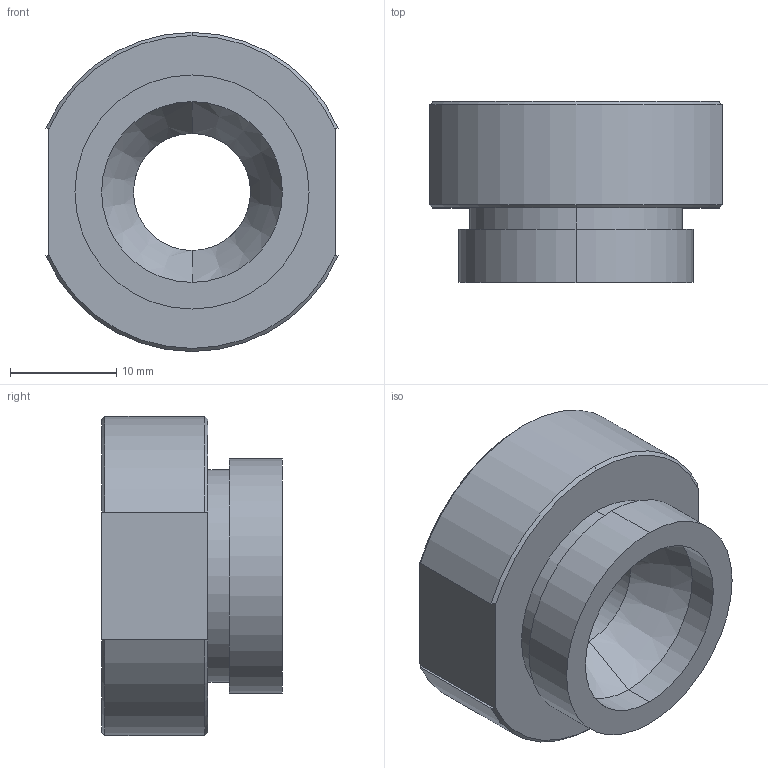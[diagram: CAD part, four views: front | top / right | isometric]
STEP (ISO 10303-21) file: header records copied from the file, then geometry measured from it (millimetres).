
FILE_DESCRIPTION (( 'STEP AP203' ), '1' );
FILE_NAME ('SW-PN-C10A.STEP', '2022-04-06T02:55:47', ( '' ), ( '' ), 'SwSTEP 2.0', 'SolidWorks 2015', '' );
FILE_SCHEMA (( 'CONFIG_CONTROL_DESIGN' ));
Length unit declared in the file: millimetre
Products named in the file (2): SW-PN-C10A
Bounding box: 27.5 x 17 x 30 mm (x, y, z)
Volume: 7025 mm3; surface area: 3281.6 mm2
Topology: 1 solids, 1 shells, 31 faces, 74 edges, 47 vertices
Faces by surface type: cylinder 11, cone 10, plane 10
Entity records: 1106 total; most frequent: CARTESIAN_POINT 236, DIRECTION 151, ORIENTED_EDGE 148, EDGE_CURVE 74, AXIS2_PLACEMENT_3D 62, VERTEX_POINT 47, EDGE_LOOP 35, FACE_OUTER_BOUND 31
